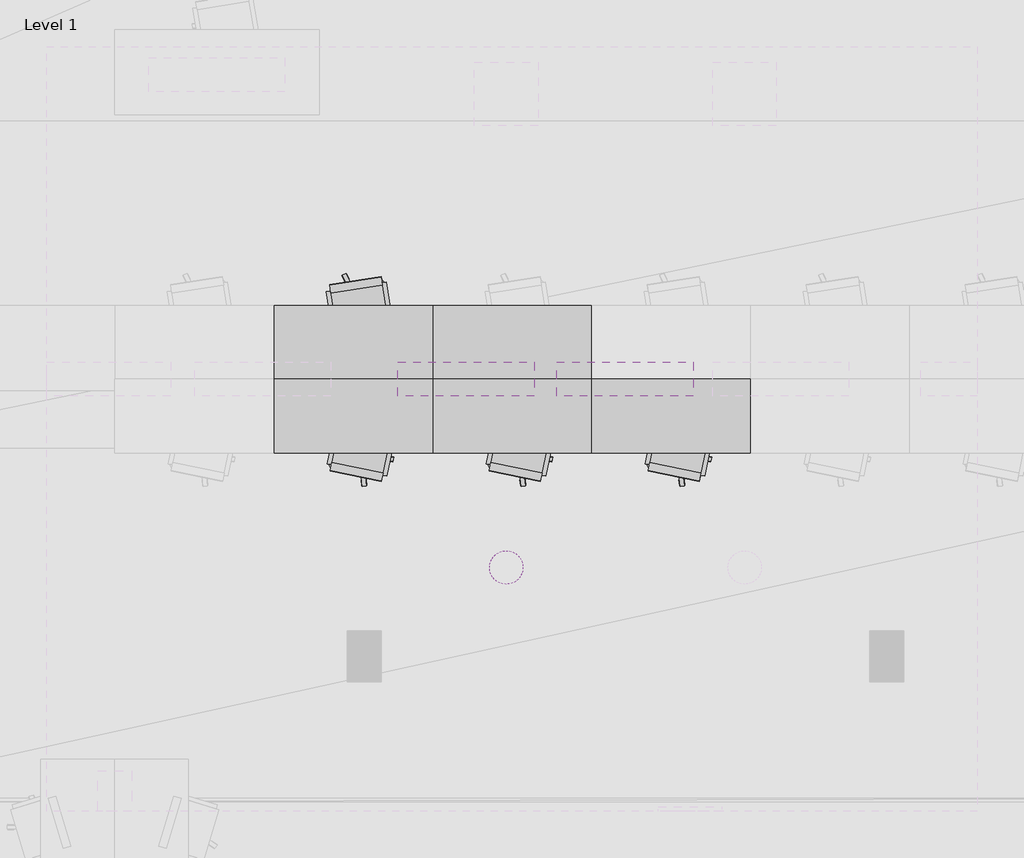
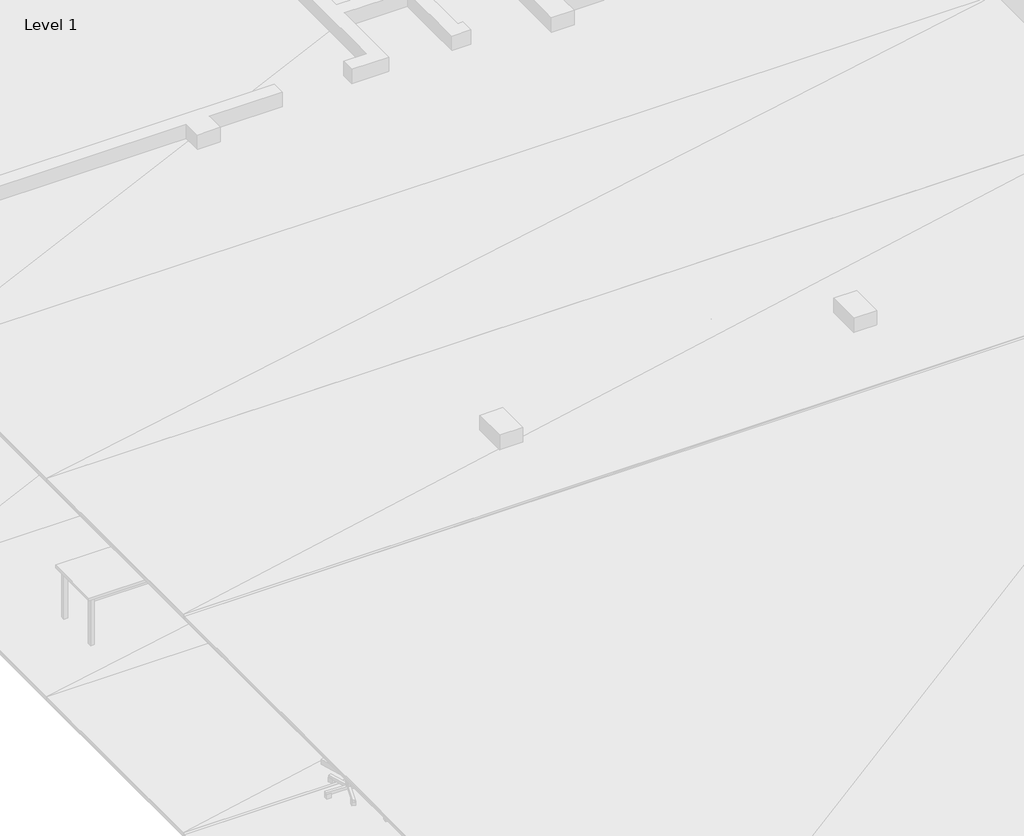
# One storey, part 7 of 14: 17 proxies.
"""IFC4 building model written with IfcOpenShell, lengths in millimetres."""

from ifc_helpers import new_model, si_unit, frame, origin, place, context, project, spatial, polyline, outline, extrude, element, save

model = new_model("IFC4")

# Units and contexts
model_context = context("Model", 3, world=origin())
ifc_project = project(units=[si_unit("LENGTHUNIT", "METRE", prefix="MILLI")], contexts=[model_context])

# Site, building, storey
site = spatial("IfcSite", under=ifc_project)
building = spatial("IfcBuilding", under=site)
storey = spatial("IfcBuildingStorey", under=building, Name="Level 1", Elevation=0.0)

# Proxies
placement = place(None, origin())
element("IfcBuildingElementProxy", 1, Name="Generic Models", at=placement, inside=storey, context=model_context, shape_type="SweptSolid", body=[
    extrude(outline(polyline([(5456.82621, 13859.130859), (5456.82621, 13209.131241), (4056.826115, 13209.131241), (4056.826115, 13859.130859), (5456.82621, 13859.130859)])), frame((0.0, 0.0, 709.999979), z_axis=(0.0, 0.0, 1.0), x_axis=(1.0, 0.0, 0.0)), (0.0, 0.0, 1.0), 40.000021),
])
element("IfcBuildingElementProxy", 2, Name="Generic Models", at=placement, inside=storey, context=model_context, shape_type="SweptSolid", body=[
    extrude(outline(polyline([(6856.826305, 13859.130859), (6856.826305, 13209.131241), (5456.82621, 13209.131241), (5456.82621, 13859.130859), (6856.826305, 13859.130859)])), frame((0.0, 0.0, 709.999979), z_axis=(0.0, 0.0, 1.0), x_axis=(1.0, 0.0, 0.0)), (0.0, 0.0, 1.0), 40.000021),
])
element("IfcBuildingElementProxy", 3, Name="Generic Models", at=placement, inside=storey, context=model_context, shape_type="SweptSolid", body=[
    extrude(outline(polyline([(8256.826401, 13859.130859), (8256.826401, 13209.131241), (6856.826305, 13209.131241), (6856.826305, 13859.130859), (8256.826401, 13859.130859)])), frame((0.0, 0.0, 709.999979), z_axis=(0.0, 0.0, 1.0), x_axis=(1.0, 0.0, 0.0)), (0.0, 0.0, 1.0), 40.000021),
])
element("IfcBuildingElementProxy", 4, Name="Generic Models", at=placement, inside=storey, context=model_context, shape_type="SweptSolid", body=[
    extrude(outline(polyline([(5456.82621, 14509.131432), (5456.82621, 13859.130859), (4056.826115, 13859.130859), (4056.826115, 14509.131432), (5456.82621, 14509.131432)])), frame((0.0, 0.0, 709.999979), z_axis=(0.0, 0.0, 1.0), x_axis=(1.0, 0.0, 0.0)), (0.0, 0.0, 1.0), 40.000021),
])
element("IfcBuildingElementProxy", 5, Name="Generic Models", at=placement, inside=storey, context=model_context, shape_type="SweptSolid", body=[
    extrude(outline(polyline([(6856.826305, 14509.131432), (6856.826305, 13859.130859), (5456.82621, 13859.130859), (5456.82621, 14509.131432), (6856.826305, 14509.131432)])), frame((0.0, 0.0, 709.999979), z_axis=(0.0, 0.0, 1.0), x_axis=(1.0, 0.0, 0.0)), (0.0, 0.0, 1.0), 40.000021),
])
element("IfcBuildingElementProxy", 6, Name="Generic Models", at=placement, inside=storey, context=model_context, shape_type="SweptSolid", body=[
    extrude(outline(polyline([(5152.470112, 13709.131241), (5152.470112, 14009.130478), (6352.469921, 14009.130478), (6352.469921, 13709.131241), (5152.470112, 13709.131241)])), frame((0.0, 0.0, 2910.000086), z_axis=(0.0, 0.0, 1.0), x_axis=(1.0, 0.0, 0.0)), (0.0, 0.0, 1.0), 39.999962),
])
element("IfcBuildingElementProxy", 7, Name="Generic Models", at=placement, inside=storey, context=model_context, shape_type="SweptSolid", body=[
    extrude(outline(polyline([(6552.470207, 13709.131241), (6552.470207, 14009.130478), (7752.470016, 14009.130478), (7752.470016, 13709.131241), (6552.470207, 13709.131241)])), frame((0.0, 0.0, 2910.000086), z_axis=(0.0, 0.0, 1.0), x_axis=(1.0, 0.0, 0.0)), (0.0, 0.0, 1.0), 39.999962),
])
element("IfcBuildingElementProxy", 8, Name="Generic Models", at=placement, inside=storey, context=model_context, shape_type="SweptSolid", body=[
    extrude(outline(polyline([(6242.160797, 12143.173218), (6228.543282, 12117.696762), (6210.217476, 12095.366478), (6187.886715, 12077.040672), (6162.410259, 12063.423157), (6134.766579, 12055.037498), (6106.018066, 12052.206039), (6077.269554, 12055.037498), (6049.625874, 12063.423157), (6024.149418, 12077.040672), (6001.818657, 12095.366478), (5983.492851, 12117.696762), (5969.875336, 12143.173218), (5961.489677, 12170.817375), (5958.658218, 12199.565887), (5961.489677, 12228.3144), (5969.875336, 12255.958557), (5983.492851, 12281.435013), (6001.818657, 12303.765297), (6024.149418, 12322.091103), (6049.625874, 12335.708618), (6077.269554, 12344.094276), (6106.018066, 12346.925735), (6134.766579, 12344.094276), (6162.410259, 12335.708618), (6187.886715, 12322.091103), (6210.217476, 12303.765297), (6228.543282, 12281.435013), (6242.160797, 12255.958557), (6250.546455, 12228.3144), (6253.377914, 12199.565887), (6250.546455, 12170.817375), (6242.160797, 12143.173218)])), frame((0.0, 0.0, 2910.000086), z_axis=(0.0, 0.0, 1.0), x_axis=(1.0, 0.0, 0.0)), (0.0, 0.0, 1.0), 39.999962),
])
element("IfcBuildingElementProxy", 9, Name="Generic Models", at=placement, inside=storey, context=model_context, shape_type="SweptSolid", body=[
    extrude(outline(polyline([(5404.326439, 13284.13105), (5359.326363, 13284.13105), (5359.326363, 13784.13105), (5404.326439, 13784.13105), (5404.326439, 13284.13105)])), frame((0.0, 0.0, 639.999986), z_axis=(0.0, 0.0, 1.0), x_axis=(1.0, 0.0, 0.0)), (0.0, 0.0, 1.0), 69.999993),
    extrude(outline(polyline([(4154.325962, 13284.13105), (4109.325886, 13284.13105), (4109.325886, 13784.13105), (4154.325962, 13784.13105), (4154.325962, 13284.13105)])), frame((0.0, 0.0, 639.999986), z_axis=(0.0, 0.0, 1.0), x_axis=(1.0, 0.0, 0.0)), (0.0, 0.0, 1.0), 69.999993),
    extrude(outline(polyline([(4131.825924, 13761.631012), (4131.825924, 13806.631088), (5381.826401, 13806.631088), (5381.826401, 13761.631012), (4131.825924, 13761.631012)])), frame((0.0, 0.0, 639.999986), z_axis=(0.0, 0.0, 1.0), x_axis=(1.0, 0.0, 0.0)), (0.0, 0.0, 1.0), 69.999993),
    extrude(outline(polyline([(4131.825924, 13261.631012), (4131.825924, 13306.631088), (5381.826401, 13306.631088), (5381.826401, 13261.631012), (4131.825924, 13261.631012)])), frame((0.0, 0.0, 639.999986), z_axis=(0.0, 0.0, 1.0), x_axis=(1.0, 0.0, 0.0)), (0.0, 0.0, 1.0), 69.999993),
    extrude(outline(polyline([(5357.451439, 13759.756088), (5357.451439, 13808.506012), (5406.201363, 13808.506012), (5406.201363, 13759.756088), (5357.451439, 13759.756088)])), frame((0.0, 0.0, 50.000001), z_axis=(0.0, 0.0, 1.0), x_axis=(1.0, 0.0, 0.0)), (0.0, 0.0, 1.0), 659.999978),
    extrude(outline(polyline([(5357.451439, 13259.756088), (5357.451439, 13308.506012), (5406.201363, 13308.506012), (5406.201363, 13259.756088), (5357.451439, 13259.756088)])), frame((0.0, 0.0, 50.000001), z_axis=(0.0, 0.0, 1.0), x_axis=(1.0, 0.0, 0.0)), (0.0, 0.0, 1.0), 659.999978),
    extrude(outline(polyline([(4107.450962, 13759.756088), (4107.450962, 13808.506012), (4156.200886, 13808.506012), (4156.200886, 13759.756088), (4107.450962, 13759.756088)])), frame((0.0, 0.0, 50.000001), z_axis=(0.0, 0.0, 1.0), x_axis=(1.0, 0.0, 0.0)), (0.0, 0.0, 1.0), 659.999978),
    extrude(outline(polyline([(4107.450962, 13259.756088), (4107.450962, 13308.506012), (4156.200886, 13308.506012), (4156.200886, 13259.756088), (4107.450962, 13259.756088)])), frame((0.0, 0.0, 50.000001), z_axis=(0.0, 0.0, 1.0), x_axis=(1.0, 0.0, 0.0)), (0.0, 0.0, 1.0), 659.999978),
])
element("IfcBuildingElementProxy", 10, Name="Generic Models", at=placement, inside=storey, context=model_context, shape_type="SweptSolid", body=[
    extrude(outline(polyline([(6804.326534, 13284.13105), (6759.326458, 13284.13105), (6759.326458, 13784.13105), (6804.326534, 13784.13105), (6804.326534, 13284.13105)])), frame((0.0, 0.0, 639.999986), z_axis=(0.0, 0.0, 1.0), x_axis=(1.0, 0.0, 0.0)), (0.0, 0.0, 1.0), 69.999993),
    extrude(outline(polyline([(5554.326057, 13284.13105), (5509.325981, 13284.13105), (5509.325981, 13784.13105), (5554.326057, 13784.13105), (5554.326057, 13284.13105)])), frame((0.0, 0.0, 639.999986), z_axis=(0.0, 0.0, 1.0), x_axis=(1.0, 0.0, 0.0)), (0.0, 0.0, 1.0), 69.999993),
    extrude(outline(polyline([(5531.826019, 13761.631012), (5531.826019, 13806.631088), (6781.826496, 13806.631088), (6781.826496, 13761.631012), (5531.826019, 13761.631012)])), frame((0.0, 0.0, 639.999986), z_axis=(0.0, 0.0, 1.0), x_axis=(1.0, 0.0, 0.0)), (0.0, 0.0, 1.0), 69.999993),
    extrude(outline(polyline([(5531.826019, 13261.631012), (5531.826019, 13306.631088), (6781.826496, 13306.631088), (6781.826496, 13261.631012), (5531.826019, 13261.631012)])), frame((0.0, 0.0, 639.999986), z_axis=(0.0, 0.0, 1.0), x_axis=(1.0, 0.0, 0.0)), (0.0, 0.0, 1.0), 69.999993),
    extrude(outline(polyline([(6757.451534, 13759.756088), (6757.451534, 13808.506012), (6806.201458, 13808.506012), (6806.201458, 13759.756088), (6757.451534, 13759.756088)])), frame((0.0, 0.0, 50.000001), z_axis=(0.0, 0.0, 1.0), x_axis=(1.0, 0.0, 0.0)), (0.0, 0.0, 1.0), 659.999978),
    extrude(outline(polyline([(6757.451534, 13259.756088), (6757.451534, 13308.506012), (6806.201458, 13308.506012), (6806.201458, 13259.756088), (6757.451534, 13259.756088)])), frame((0.0, 0.0, 50.000001), z_axis=(0.0, 0.0, 1.0), x_axis=(1.0, 0.0, 0.0)), (0.0, 0.0, 1.0), 659.999978),
    extrude(outline(polyline([(5507.451057, 13759.756088), (5507.451057, 13808.506012), (5556.200981, 13808.506012), (5556.200981, 13759.756088), (5507.451057, 13759.756088)])), frame((0.0, 0.0, 50.000001), z_axis=(0.0, 0.0, 1.0), x_axis=(1.0, 0.0, 0.0)), (0.0, 0.0, 1.0), 659.999978),
    extrude(outline(polyline([(5507.451057, 13259.756088), (5507.451057, 13308.506012), (5556.200981, 13308.506012), (5556.200981, 13259.756088), (5507.451057, 13259.756088)])), frame((0.0, 0.0, 50.000001), z_axis=(0.0, 0.0, 1.0), x_axis=(1.0, 0.0, 0.0)), (0.0, 0.0, 1.0), 659.999978),
])
element("IfcBuildingElementProxy", 11, Name="Generic Models", at=placement, inside=storey, context=model_context, shape_type="SweptSolid", body=[
    extrude(outline(polyline([(8204.32663, 13284.13105), (8159.326553, 13284.13105), (8159.326553, 13784.13105), (8204.32663, 13784.13105), (8204.32663, 13284.13105)])), frame((0.0, 0.0, 639.999986), z_axis=(0.0, 0.0, 1.0), x_axis=(1.0, 0.0, 0.0)), (0.0, 0.0, 1.0), 69.999993),
    extrude(outline(polyline([(6954.326153, 13284.13105), (6909.326077, 13284.13105), (6909.326077, 13784.13105), (6954.326153, 13784.13105), (6954.326153, 13284.13105)])), frame((0.0, 0.0, 639.999986), z_axis=(0.0, 0.0, 1.0), x_axis=(1.0, 0.0, 0.0)), (0.0, 0.0, 1.0), 69.999993),
    extrude(outline(polyline([(6931.826115, 13761.631012), (6931.826115, 13806.631088), (8181.826591, 13806.631088), (8181.826591, 13761.631012), (6931.826115, 13761.631012)])), frame((0.0, 0.0, 639.999986), z_axis=(0.0, 0.0, 1.0), x_axis=(1.0, 0.0, 0.0)), (0.0, 0.0, 1.0), 69.999993),
    extrude(outline(polyline([(6931.826115, 13261.631012), (6931.826115, 13306.631088), (8181.826591, 13306.631088), (8181.826591, 13261.631012), (6931.826115, 13261.631012)])), frame((0.0, 0.0, 639.999986), z_axis=(0.0, 0.0, 1.0), x_axis=(1.0, 0.0, 0.0)), (0.0, 0.0, 1.0), 69.999993),
    extrude(outline(polyline([(8157.45163, 13759.756088), (8157.45163, 13808.506012), (8206.201553, 13808.506012), (8206.201553, 13759.756088), (8157.45163, 13759.756088)])), frame((0.0, 0.0, 50.000001), z_axis=(0.0, 0.0, 1.0), x_axis=(1.0, 0.0, 0.0)), (0.0, 0.0, 1.0), 659.999978),
    extrude(outline(polyline([(8157.45163, 13259.756088), (8157.45163, 13308.506012), (8206.201553, 13308.506012), (8206.201553, 13259.756088), (8157.45163, 13259.756088)])), frame((0.0, 0.0, 50.000001), z_axis=(0.0, 0.0, 1.0), x_axis=(1.0, 0.0, 0.0)), (0.0, 0.0, 1.0), 659.999978),
    extrude(outline(polyline([(6907.451153, 13759.756088), (6907.451153, 13808.506012), (6956.201077, 13808.506012), (6956.201077, 13759.756088), (6907.451153, 13759.756088)])), frame((0.0, 0.0, 50.000001), z_axis=(0.0, 0.0, 1.0), x_axis=(1.0, 0.0, 0.0)), (0.0, 0.0, 1.0), 659.999978),
    extrude(outline(polyline([(6907.451153, 13259.756088), (6907.451153, 13308.506012), (6956.201077, 13308.506012), (6956.201077, 13259.756088), (6907.451153, 13259.756088)])), frame((0.0, 0.0, 50.000001), z_axis=(0.0, 0.0, 1.0), x_axis=(1.0, 0.0, 0.0)), (0.0, 0.0, 1.0), 659.999978),
])
element("IfcBuildingElementProxy", 12, Name="Generic Models", at=placement, inside=storey, context=model_context, shape_type="SweptSolid", body=[
    extrude(outline(polyline([(5404.326439, 13934.130669), (5359.326363, 13934.130669), (5359.326363, 14434.131622), (5404.326439, 14434.131622), (5404.326439, 13934.130669)])), frame((0.0, 0.0, 639.999986), z_axis=(0.0, 0.0, 1.0), x_axis=(1.0, 0.0, 0.0)), (0.0, 0.0, 1.0), 69.999993),
    extrude(outline(polyline([(4154.325962, 13934.130669), (4109.325886, 13934.130669), (4109.325886, 14434.131622), (4154.325962, 14434.131622), (4154.325962, 13934.130669)])), frame((0.0, 0.0, 639.999986), z_axis=(0.0, 0.0, 1.0), x_axis=(1.0, 0.0, 0.0)), (0.0, 0.0, 1.0), 69.999993),
    extrude(outline(polyline([(4131.825924, 14411.631584), (4131.825924, 14456.63166), (5381.826401, 14456.63166), (5381.826401, 14411.631584), (4131.825924, 14411.631584)])), frame((0.0, 0.0, 639.999986), z_axis=(0.0, 0.0, 1.0), x_axis=(1.0, 0.0, 0.0)), (0.0, 0.0, 1.0), 69.999993),
    extrude(outline(polyline([(4131.825924, 13911.63063), (4131.825924, 13956.630707), (5381.826401, 13956.630707), (5381.826401, 13911.63063), (4131.825924, 13911.63063)])), frame((0.0, 0.0, 639.999986), z_axis=(0.0, 0.0, 1.0), x_axis=(1.0, 0.0, 0.0)), (0.0, 0.0, 1.0), 69.999993),
    extrude(outline(polyline([(5357.450962, 14409.75666), (5357.450962, 14458.506584), (5406.201363, 14458.506584), (5406.201363, 14409.75666), (5357.450962, 14409.75666)])), frame((0.0, 0.0, 50.000001), z_axis=(0.0, 0.0, 1.0), x_axis=(1.0, 0.0, 0.0)), (0.0, 0.0, 1.0), 659.999978),
    extrude(outline(polyline([(5357.450962, 13909.755707), (5357.450962, 13958.50563), (5406.201363, 13958.50563), (5406.201363, 13909.755707), (5357.450962, 13909.755707)])), frame((0.0, 0.0, 50.000001), z_axis=(0.0, 0.0, 1.0), x_axis=(1.0, 0.0, 0.0)), (0.0, 0.0, 1.0), 659.999978),
    extrude(outline(polyline([(4107.450962, 14409.75666), (4107.450962, 14458.506584), (4156.201363, 14458.506584), (4156.201363, 14409.75666), (4107.450962, 14409.75666)])), frame((0.0, 0.0, 50.000001), z_axis=(0.0, 0.0, 1.0), x_axis=(1.0, 0.0, 0.0)), (0.0, 0.0, 1.0), 659.999978),
    extrude(outline(polyline([(4107.450962, 13909.755707), (4107.450962, 13958.50563), (4156.201363, 13958.50563), (4156.201363, 13909.755707), (4107.450962, 13909.755707)])), frame((0.0, 0.0, 50.000001), z_axis=(0.0, 0.0, 1.0), x_axis=(1.0, 0.0, 0.0)), (0.0, 0.0, 1.0), 659.999978),
])
element("IfcBuildingElementProxy", 13, Name="Generic Models", at=placement, inside=storey, context=model_context, shape_type="SweptSolid", body=[
    extrude(outline(polyline([(6804.326534, 13934.130669), (6759.326458, 13934.130669), (6759.326458, 14434.131622), (6804.326534, 14434.131622), (6804.326534, 13934.130669)])), frame((0.0, 0.0, 639.999986), z_axis=(0.0, 0.0, 1.0), x_axis=(1.0, 0.0, 0.0)), (0.0, 0.0, 1.0), 69.999993),
    extrude(outline(polyline([(5554.326057, 13934.130669), (5509.325981, 13934.130669), (5509.325981, 14434.131622), (5554.326057, 14434.131622), (5554.326057, 13934.130669)])), frame((0.0, 0.0, 639.999986), z_axis=(0.0, 0.0, 1.0), x_axis=(1.0, 0.0, 0.0)), (0.0, 0.0, 1.0), 69.999993),
    extrude(outline(polyline([(5531.826019, 14411.631584), (5531.826019, 14456.63166), (6781.826496, 14456.63166), (6781.826496, 14411.631584), (5531.826019, 14411.631584)])), frame((0.0, 0.0, 639.999986), z_axis=(0.0, 0.0, 1.0), x_axis=(1.0, 0.0, 0.0)), (0.0, 0.0, 1.0), 69.999993),
    extrude(outline(polyline([(5531.826019, 13911.63063), (5531.826019, 13956.630707), (6781.826496, 13956.630707), (6781.826496, 13911.63063), (5531.826019, 13911.63063)])), frame((0.0, 0.0, 639.999986), z_axis=(0.0, 0.0, 1.0), x_axis=(1.0, 0.0, 0.0)), (0.0, 0.0, 1.0), 69.999993),
    extrude(outline(polyline([(6757.451057, 14409.75666), (6757.451057, 14458.506584), (6806.201458, 14458.506584), (6806.201458, 14409.75666), (6757.451057, 14409.75666)])), frame((0.0, 0.0, 50.000001), z_axis=(0.0, 0.0, 1.0), x_axis=(1.0, 0.0, 0.0)), (0.0, 0.0, 1.0), 659.999978),
    extrude(outline(polyline([(6757.451057, 13909.755707), (6757.451057, 13958.50563), (6806.201458, 13958.50563), (6806.201458, 13909.755707), (6757.451057, 13909.755707)])), frame((0.0, 0.0, 50.000001), z_axis=(0.0, 0.0, 1.0), x_axis=(1.0, 0.0, 0.0)), (0.0, 0.0, 1.0), 659.999978),
    extrude(outline(polyline([(5507.451057, 14409.75666), (5507.451057, 14458.506584), (5556.201458, 14458.506584), (5556.201458, 14409.75666), (5507.451057, 14409.75666)])), frame((0.0, 0.0, 50.000001), z_axis=(0.0, 0.0, 1.0), x_axis=(1.0, 0.0, 0.0)), (0.0, 0.0, 1.0), 659.999978),
    extrude(outline(polyline([(5507.451057, 13909.755707), (5507.451057, 13958.50563), (5556.201458, 13958.50563), (5556.201458, 13909.755707), (5507.451057, 13909.755707)])), frame((0.0, 0.0, 50.000001), z_axis=(0.0, 0.0, 1.0), x_axis=(1.0, 0.0, 0.0)), (0.0, 0.0, 1.0), 659.999978),
])
element("IfcBuildingElementProxy", 14, Name="Generic Models", at=placement, inside=storey, context=model_context, shape_type="SweptSolid", body=[
    extrude(outline(polyline([(4577.1451, 14484.13372), (4581.773281, 14454.493523), (4552.13213, 14449.865341), (4547.503948, 14479.505539), (4577.1451, 14484.13372)])), frame((0.0, 0.0, 439.999998), z_axis=(0.0, 0.0, 1.0), x_axis=(1.0, 0.0, 0.0)), (0.0, 0.0, 1.0), 199.999988),
    extrude(outline(polyline([(4555.702209, 14637.663841), (4608.156204, 14301.734924), (4573.57502, 14296.33522), (4521.121025, 14632.264137), (4555.702209, 14637.663841)])), frame((0.0, 0.0, 612.500012), z_axis=(0.0, 0.0, 1.0), x_axis=(1.0, 0.0, 0.0)), (0.0, 0.0, 1.0), 34.999967),
    extrude(outline(polyline([(4617.224216, 14664.982796), (4621.080875, 14640.281677), (4596.380234, 14636.425018), (4592.523575, 14661.126137), (4617.224216, 14664.982796)])), frame((0.0, 0.0, 460.000008), z_axis=(0.0, 0.0, 1.0), x_axis=(1.0, 0.0, 0.0)), (0.0, 0.0, 1.0), 400.000006),
    extrude(outline(polyline([(5071.158886, 14561.272621), (5075.787067, 14531.63147), (5046.146393, 14527.003288), (5041.517735, 14556.64444), (5071.158886, 14561.272621)])), frame((0.0, 0.0, 439.999998), z_axis=(0.0, 0.0, 1.0), x_axis=(1.0, 0.0, 0.0)), (0.0, 0.0, 1.0), 199.999988),
    extrude(outline(polyline([(5049.715996, 14714.802742), (5102.169991, 14378.872871), (5067.588806, 14373.473167), (5015.134811, 14709.403038), (5049.715996, 14714.802742)])), frame((0.0, 0.0, 612.500012), z_axis=(0.0, 0.0, 1.0), x_axis=(1.0, 0.0, 0.0)), (0.0, 0.0, 1.0), 34.999967),
    extrude(outline(polyline([(4972.914219, 14720.521927), (4976.770878, 14695.821762), (4952.070236, 14691.964149), (4948.213577, 14716.665268), (4972.914219, 14720.521927)])), frame((0.0, 0.0, 460.000008), z_axis=(0.0, 0.0, 1.0), x_axis=(1.0, 0.0, 0.0)), (0.0, 0.0, 1.0), 400.000006),
    extrude(outline(polyline([(5004.951, 14758.418083), (5015.750408, 14689.256668), (4561.257839, 14618.288994), (4550.458431, 14687.451363), (5004.951, 14758.418083)])), frame((0.0, 0.0, 460.000008), z_axis=(0.0, 0.0, 1.0), x_axis=(1.0, 0.0, 0.0)), (0.0, 0.0, 1.0), 479.99999),
    extrude(outline(polyline([(5004.179955, 14763.358116), (5068.975925, 14348.386765), (4614.48288, 14277.420044), (4549.686909, 14692.391396), (5004.179955, 14763.358116)])), frame((0.0, 0.0, 400.000006), z_axis=(0.0, 0.0, 1.0), x_axis=(1.0, 0.0, 0.0)), (0.0, 0.0, 1.0), 69.999993),
    extrude(outline(polyline([(4826.831341, 14490.077972), (4809.331417, 14485.388756), (4791.831493, 14490.077972), (4779.020309, 14502.88868), (4774.33157, 14520.389557), (4779.020309, 14537.889481), (4791.831493, 14550.700188), (4809.331417, 14555.389404), (4826.831341, 14550.700188), (4839.642525, 14537.889481), (4844.331264, 14520.389557), (4839.642525, 14502.88868), (4826.831341, 14490.077972)])), frame((0.0, 0.0, 115.000002), z_axis=(0.0, 0.0, 1.0), x_axis=(1.0, 0.0, 0.0)), (0.0, 0.0, 1.0), 280.000009),
    extrude(outline(polyline([(4722.04113, 14742.408752), (4681.901455, 14722.066879), (4657.039165, 14771.126747), (4697.178841, 14791.46862), (4722.04113, 14742.408752)])), frame((0.0, 0.0, 35.0), z_axis=(0.0, 0.0, 1.0), x_axis=(1.0, 0.0, 0.0)), (0.0, 0.0, 1.0), 59.999999),
    extrude(outline(polyline([(4827.201366, 14523.839951), (4795.981884, 14508.018494), (4660.368919, 14775.617599), (4691.588879, 14791.439056), (4827.201366, 14523.839951)])), frame((0.0, 0.0, 82.500003), z_axis=(0.0, 0.0, 1.0), x_axis=(1.0, 0.0, 0.0)), (0.0, 0.0, 1.0), 34.999997),
    extrude(outline(polyline([(4993.510723, 14672.01519), (4961.760521, 14703.904152), (5000.736237, 14742.710114), (5032.486439, 14710.821152), (4993.510723, 14672.01519)])), frame((0.0, 0.0, 35.0), z_axis=(0.0, 0.0, 1.0), x_axis=(1.0, 0.0, 0.0)), (0.0, 0.0, 1.0), 59.999999),
    extrude(outline(polyline([(4818.135262, 14504.460335), (4793.440819, 14529.262543), (5006.035805, 14740.930557), (5030.730247, 14716.128349), (4818.135262, 14504.460335)])), frame((0.0, 0.0, 82.500003), z_axis=(0.0, 0.0, 1.0), x_axis=(1.0, 0.0, 0.0)), (0.0, 0.0, 1.0), 34.999997),
    extrude(outline(polyline([(5010.45084, 14392.079353), (5030.968189, 14432.12986), (5079.918861, 14407.052994), (5059.401512, 14367.002487), (5010.45084, 14392.079353)])), frame((0.0, 0.0, 35.0), z_axis=(0.0, 0.0, 1.0), x_axis=(1.0, 0.0, 0.0)), (0.0, 0.0, 1.0), 59.999999),
    extrude(outline(polyline([(4796.902657, 14507.09343), (4812.860012, 14538.244247), (5079.864025, 14401.463509), (5063.906193, 14370.312691), (4796.902657, 14507.09343)])), frame((0.0, 0.0, 82.500003), z_axis=(0.0, 0.0, 1.0), x_axis=(1.0, 0.0, 0.0)), (0.0, 0.0, 1.0), 34.999997),
    extrude(outline(polyline([(4749.450684, 14289.463043), (4793.880939, 14282.326698), (4785.158634, 14228.022575), (4740.727901, 14235.15892), (4749.450684, 14289.463043)])), frame((0.0, 0.0, 35.0), z_axis=(0.0, 0.0, 1.0), x_axis=(1.0, 0.0, 0.0)), (0.0, 0.0, 1.0), 59.999999),
    extrude(outline(polyline([(4792.845726, 14528.100967), (4827.403069, 14522.550583), (4779.825211, 14226.34697), (4745.268345, 14231.898308), (4792.845726, 14528.100967)])), frame((0.0, 0.0, 82.500003), z_axis=(0.0, 0.0, 1.0), x_axis=(1.0, 0.0, 0.0)), (0.0, 0.0, 1.0), 34.999997),
    extrude(outline(polyline([(4571.203709, 14505.979538), (4578.145981, 14461.518288), (4523.804665, 14453.032494), (4516.861916, 14497.493744), (4571.203709, 14505.979538)])), frame((0.0, 0.0, 35.0), z_axis=(0.0, 0.0, 1.0), x_axis=(1.0, 0.0, 0.0)), (0.0, 0.0, 1.0), 59.999999),
    extrude(outline(polyline([(4811.571598, 14538.451195), (4816.971302, 14503.87001), (4520.563126, 14457.587242), (4515.163422, 14492.168427), (4811.571598, 14538.451195)])), frame((0.0, 0.0, 82.500003), z_axis=(0.0, 0.0, 1.0), x_axis=(1.0, 0.0, 0.0)), (0.0, 0.0, 1.0), 34.999997),
])
element("IfcBuildingElementProxy", 15, Name="Generic Models", at=placement, inside=storey, context=model_context, shape_type="SweptSolid", body=[
    extrude(outline(polyline([(5053.338051, 13164.08062), (5059.376717, 13193.466187), (5088.762283, 13187.428474), (5082.724094, 13158.041954), (5053.338051, 13164.08062)])), frame((0.0, 0.0, 439.999998), z_axis=(0.0, 0.0, 1.0), x_axis=(1.0, 0.0, 0.0)), (0.0, 0.0, 1.0), 199.999988),
    extrude(outline(polyline([(5019.690037, 13012.756348), (5088.126659, 13345.797539), (5122.410297, 13338.752747), (5053.973675, 13005.711555), (5019.690037, 13012.756348)])), frame((0.0, 0.0, 612.500012), z_axis=(0.0, 0.0, 1.0), x_axis=(1.0, 0.0, 0.0)), (0.0, 0.0, 1.0), 34.999967),
    extrude(outline(polyline([(4952.497959, 13008.69751), (4957.530022, 13033.185959), (4982.018471, 13028.154373), (4976.986408, 13003.665924), (4952.497959, 13008.69751)])), frame((0.0, 0.0, 460.000008), z_axis=(0.0, 0.0, 1.0), x_axis=(1.0, 0.0, 0.0)), (0.0, 0.0, 1.0), 400.000006),
    extrude(outline(polyline([(4563.571453, 13264.722824), (4569.610119, 13294.108391), (4598.996162, 13288.069725), (4592.957497, 13258.684158), (4563.571453, 13264.722824)])), frame((0.0, 0.0, 439.999998), z_axis=(0.0, 0.0, 1.0), x_axis=(1.0, 0.0, 0.0)), (0.0, 0.0, 1.0), 199.999988),
    extrude(outline(polyline([(4529.923916, 13113.398552), (4598.360062, 13446.439743), (4632.644176, 13439.394951), (4564.207554, 13106.35376), (4529.923916, 13113.398552)])), frame((0.0, 0.0, 612.500012), z_axis=(0.0, 0.0, 1.0), x_axis=(1.0, 0.0, 0.0)), (0.0, 0.0, 1.0), 34.999967),
    extrude(outline(polyline([(4599.86639, 13081.160545), (4604.898453, 13105.648041), (4629.386425, 13100.616455), (4624.354362, 13076.128006), (4599.86639, 13081.160545)])), frame((0.0, 0.0, 460.000008), z_axis=(0.0, 0.0, 1.0), x_axis=(1.0, 0.0, 0.0)), (0.0, 0.0, 1.0), 400.000006),
    extrude(outline(polyline([(4556.591988, 13056.873322), (4570.682049, 13125.440598), (5021.266937, 13032.850266), (5007.176876, 12964.28299), (4556.591988, 13056.873322)])), frame((0.0, 0.0, 460.000008), z_axis=(0.0, 0.0, 1.0), x_axis=(1.0, 0.0, 0.0)), (0.0, 0.0, 1.0), 479.99999),
    extrude(outline(polyline([(4555.585384, 13051.976204), (4640.124798, 13463.37986), (5090.710163, 13370.788574), (5006.17075, 12959.384918), (4555.585384, 13051.976204)])), frame((0.0, 0.0, 400.000006), z_axis=(0.0, 0.0, 1.0), x_axis=(1.0, 0.0, 0.0)), (0.0, 0.0, 1.0), 69.999993),
    extrude(outline(polyline([(4840.647697, 13181.071281), (4823.147774, 13176.382065), (4805.64785, 13181.071281), (4792.836666, 13193.881989), (4788.147926, 13211.381912), (4792.836666, 13228.88279), (4805.64785, 13241.693497), (4823.147774, 13246.382713), (4840.647697, 13241.693497), (4853.458881, 13228.88279), (4858.147621, 13211.381912), (4853.458881, 13193.881989), (4840.647697, 13181.071281)])), frame((0.0, 0.0, 115.000002), z_axis=(0.0, 0.0, 1.0), x_axis=(1.0, 0.0, 0.0)), (0.0, 0.0, 1.0), 280.000009),
    extrude(outline(polyline([(4827.211857, 12972.853661), (4871.93203, 12977.860451), (4878.051758, 12923.201561), (4833.331108, 12918.194771), (4827.211857, 12972.853661)])), frame((0.0, 0.0, 35.0), z_axis=(0.0, 0.0, 1.0), x_axis=(1.0, 0.0, 0.0)), (0.0, 0.0, 1.0), 59.999999),
    extrude(outline(polyline([(4805.2001, 13214.404106), (4839.982986, 13218.297958), (4873.360634, 12920.161247), (4838.578224, 12916.266441), (4805.2001, 13214.404106)])), frame((0.0, 0.0, 82.500003), z_axis=(0.0, 0.0, 1.0), x_axis=(1.0, 0.0, 0.0)), (0.0, 0.0, 1.0), 34.999997),
    extrude(outline(polyline([(4597.549438, 13133.808136), (4616.130352, 13092.823029), (4566.038132, 13070.113182), (4547.456741, 13111.097336), (4597.549438, 13133.808136)])), frame((0.0, 0.0, 35.0), z_axis=(0.0, 0.0, 1.0), x_axis=(1.0, 0.0, 0.0)), (0.0, 0.0, 1.0), 59.999999),
    extrude(outline(polyline([(4820.475578, 13229.385376), (4834.927559, 13197.508812), (4561.696529, 13073.635101), (4547.244549, 13105.511665), (4820.475578, 13229.385376)])), frame((0.0, 0.0, 82.500003), z_axis=(0.0, 0.0, 1.0), x_axis=(1.0, 0.0, 0.0)), (0.0, 0.0, 1.0), 34.999997),
    extrude(outline(polyline([(4679.656506, 13401.968002), (4646.419525, 13371.630669), (4609.341145, 13412.25338), (4642.578125, 13442.590714), (4679.656506, 13401.968002)])), frame((0.0, 0.0, 35.0), z_axis=(0.0, 0.0, 1.0), x_axis=(1.0, 0.0, 0.0)), (0.0, 0.0, 1.0), 59.999999),
    extrude(outline(polyline([(4839.44416, 13219.48719), (4813.592911, 13195.89138), (4611.349106, 13417.470932), (4637.199879, 13441.065788), (4839.44416, 13219.48719)])), frame((0.0, 0.0, 82.500003), z_axis=(0.0, 0.0, 1.0), x_axis=(1.0, 0.0, 0.0)), (0.0, 0.0, 1.0), 34.999997),
    extrude(outline(polyline([(4960.063934, 13406.744957), (4920.941353, 13428.980827), (4948.11821, 13476.797104), (4987.240791, 13454.561234), (4960.063934, 13406.744957)])), frame((0.0, 0.0, 35.0), z_axis=(0.0, 0.0, 1.0), x_axis=(1.0, 0.0, 0.0)), (0.0, 0.0, 1.0), 59.999999),
    extrude(outline(polyline([(4835.891724, 13198.3881), (4805.462837, 13215.682983), (4953.700066, 13476.499557), (4984.128952, 13459.205627), (4835.891724, 13198.3881)])), frame((0.0, 0.0, 82.500003), z_axis=(0.0, 0.0, 1.0), x_axis=(1.0, 0.0, 0.0)), (0.0, 0.0, 1.0), 34.999997),
    extrude(outline(polyline([(5051.258087, 13141.537666), (5060.315609, 13185.616493), (5114.190102, 13174.546242), (5105.132103, 13130.467415), (5051.258087, 13141.537666)])), frame((0.0, 0.0, 35.0), z_axis=(0.0, 0.0, 1.0), x_axis=(1.0, 0.0, 0.0)), (0.0, 0.0, 1.0), 59.999999),
    extrude(outline(polyline([(4814.727783, 13195.246696), (4821.772575, 13229.530334), (5115.632534, 13169.145584), (5108.587265, 13134.861946), (4814.727783, 13195.246696)])), frame((0.0, 0.0, 82.500003), z_axis=(0.0, 0.0, 1.0), x_axis=(1.0, 0.0, 0.0)), (0.0, 0.0, 1.0), 34.999997),
])
element("IfcBuildingElementProxy", 16, Name="Generic Models", at=placement, inside=storey, context=model_context, shape_type="SweptSolid", body=[
    extrude(outline(polyline([(6453.337669, 13164.08062), (6459.376335, 13193.46714), (6488.762379, 13187.428474), (6482.723713, 13158.041954), (6453.337669, 13164.08062)])), frame((0.0, 0.0, 439.999998), z_axis=(0.0, 0.0, 1.0), x_axis=(1.0, 0.0, 0.0)), (0.0, 0.0, 1.0), 199.999988),
    extrude(outline(polyline([(6419.690132, 13012.756348), (6488.126278, 13345.797539), (6522.410393, 13338.752747), (6453.97377, 13005.711555), (6419.690132, 13012.756348)])), frame((0.0, 0.0, 612.500012), z_axis=(0.0, 0.0, 1.0), x_axis=(1.0, 0.0, 0.0)), (0.0, 0.0, 1.0), 34.999967),
    extrude(outline(polyline([(6352.498055, 13008.69751), (6357.530117, 13033.185959), (6382.018566, 13028.154373), (6376.986504, 13003.665924), (6352.498055, 13008.69751)])), frame((0.0, 0.0, 460.000008), z_axis=(0.0, 0.0, 1.0), x_axis=(1.0, 0.0, 0.0)), (0.0, 0.0, 1.0), 400.000006),
    extrude(outline(polyline([(5963.571548, 13264.722824), (5969.609737, 13294.108391), (5998.995781, 13288.069725), (5992.957592, 13258.684158), (5963.571548, 13264.722824)])), frame((0.0, 0.0, 439.999998), z_axis=(0.0, 0.0, 1.0), x_axis=(1.0, 0.0, 0.0)), (0.0, 0.0, 1.0), 199.999988),
    extrude(outline(polyline([(5929.923534, 13113.398552), (5998.360157, 13446.439743), (6032.643795, 13439.393997), (5964.207172, 13106.352806), (5929.923534, 13113.398552)])), frame((0.0, 0.0, 612.500012), z_axis=(0.0, 0.0, 1.0), x_axis=(1.0, 0.0, 0.0)), (0.0, 0.0, 1.0), 34.999967),
    extrude(outline(polyline([(5999.866009, 13081.159592), (6004.898071, 13105.648041), (6029.38652, 13100.616455), (6024.354458, 13076.128006), (5999.866009, 13081.159592)])), frame((0.0, 0.0, 460.000008), z_axis=(0.0, 0.0, 1.0), x_axis=(1.0, 0.0, 0.0)), (0.0, 0.0, 1.0), 400.000006),
    extrude(outline(polyline([(5956.592083, 13056.873322), (5970.681667, 13125.440598), (6421.267033, 13032.850266), (6407.176971, 12964.28299), (5956.592083, 13056.873322)])), frame((0.0, 0.0, 460.000008), z_axis=(0.0, 0.0, 1.0), x_axis=(1.0, 0.0, 0.0)), (0.0, 0.0, 1.0), 479.99999),
    extrude(outline(polyline([(5955.58548, 13051.97525), (6040.124416, 13463.37986), (6490.709782, 13370.789528), (6406.170845, 12959.384918), (5955.58548, 13051.97525)])), frame((0.0, 0.0, 400.000006), z_axis=(0.0, 0.0, 1.0), x_axis=(1.0, 0.0, 0.0)), (0.0, 0.0, 1.0), 69.999993),
    extrude(outline(polyline([(6240.647793, 13181.071281), (6223.147392, 13176.382065), (6205.647469, 13181.071281), (6192.836761, 13193.881989), (6188.147545, 13211.381912), (6192.836761, 13228.88279), (6205.647469, 13241.693497), (6223.147392, 13246.382713), (6240.647793, 13241.693497), (6253.4585, 13228.88279), (6258.147717, 13211.381912), (6253.4585, 13193.881989), (6240.647793, 13181.071281)])), frame((0.0, 0.0, 115.000002), z_axis=(0.0, 0.0, 1.0), x_axis=(1.0, 0.0, 0.0)), (0.0, 0.0, 1.0), 280.000009),
    extrude(outline(polyline([(6227.211475, 12972.853661), (6271.932125, 12977.860451), (6278.051376, 12923.201561), (6233.331203, 12918.194771), (6227.211475, 12972.853661)])), frame((0.0, 0.0, 35.0), z_axis=(0.0, 0.0, 1.0), x_axis=(1.0, 0.0, 0.0)), (0.0, 0.0, 1.0), 59.999999),
    extrude(outline(polyline([(6205.200195, 13214.404106), (6239.982605, 13218.297958), (6273.360729, 12920.161247), (6238.57832, 12916.266441), (6205.200195, 13214.404106)])), frame((0.0, 0.0, 82.500003), z_axis=(0.0, 0.0, 1.0), x_axis=(1.0, 0.0, 0.0)), (0.0, 0.0, 1.0), 34.999997),
    extrude(outline(polyline([(5997.549057, 13133.808136), (6016.130447, 13092.823029), (5966.03775, 13070.113182), (5947.456837, 13111.097336), (5997.549057, 13133.808136)])), frame((0.0, 0.0, 35.0), z_axis=(0.0, 0.0, 1.0), x_axis=(1.0, 0.0, 0.0)), (0.0, 0.0, 1.0), 59.999999),
    extrude(outline(polyline([(6220.475674, 13229.385376), (6234.927654, 13197.508812), (5961.696148, 13073.634148), (5947.244167, 13105.511665), (6220.475674, 13229.385376)])), frame((0.0, 0.0, 82.500003), z_axis=(0.0, 0.0, 1.0), x_axis=(1.0, 0.0, 0.0)), (0.0, 0.0, 1.0), 34.999997),
    extrude(outline(polyline([(6079.656124, 13401.967049), (6046.419144, 13371.630669), (6009.34124, 13412.25338), (6042.577744, 13442.590714), (6079.656124, 13401.967049)])), frame((0.0, 0.0, 35.0), z_axis=(0.0, 0.0, 1.0), x_axis=(1.0, 0.0, 0.0)), (0.0, 0.0, 1.0), 59.999999),
    extrude(outline(polyline([(6239.443779, 13219.48719), (6213.593006, 13195.89138), (6011.348724, 13417.470932), (6037.199497, 13441.065788), (6239.443779, 13219.48719)])), frame((0.0, 0.0, 82.500003), z_axis=(0.0, 0.0, 1.0), x_axis=(1.0, 0.0, 0.0)), (0.0, 0.0, 1.0), 34.999997),
    extrude(outline(polyline([(6360.063553, 13406.744957), (6320.940971, 13428.980827), (6348.117828, 13476.797104), (6387.24041, 13454.561234), (6360.063553, 13406.744957)])), frame((0.0, 0.0, 35.0), z_axis=(0.0, 0.0, 1.0), x_axis=(1.0, 0.0, 0.0)), (0.0, 0.0, 1.0), 59.999999),
    extrude(outline(polyline([(6235.891342, 13198.3881), (6205.462456, 13215.682983), (6353.700161, 13476.499557), (6384.128571, 13459.205627), (6235.891342, 13198.3881)])), frame((0.0, 0.0, 82.500003), z_axis=(0.0, 0.0, 1.0), x_axis=(1.0, 0.0, 0.0)), (0.0, 0.0, 1.0), 34.999997),
    extrude(outline(polyline([(6451.257706, 13141.537666), (6460.315704, 13185.617447), (6514.18972, 13174.546242), (6505.132198, 13130.467415), (6451.257706, 13141.537666)])), frame((0.0, 0.0, 35.0), z_axis=(0.0, 0.0, 1.0), x_axis=(1.0, 0.0, 0.0)), (0.0, 0.0, 1.0), 59.999999),
    extrude(outline(polyline([(6214.727402, 13195.246696), (6221.772194, 13229.530334), (6515.632153, 13169.145584), (6508.58736, 13134.861946), (6214.727402, 13195.246696)])), frame((0.0, 0.0, 82.500003), z_axis=(0.0, 0.0, 1.0), x_axis=(1.0, 0.0, 0.0)), (0.0, 0.0, 1.0), 34.999997),
])
element("IfcBuildingElementProxy", 17, Name="Generic Models", at=placement, inside=storey, context=model_context, shape_type="SweptSolid", body=[
    extrude(outline(polyline([(7853.337765, 13164.08062), (7859.376431, 13193.46714), (7888.762474, 13187.428474), (7882.723808, 13158.041954), (7853.337765, 13164.08062)])), frame((0.0, 0.0, 439.999998), z_axis=(0.0, 0.0, 1.0), x_axis=(1.0, 0.0, 0.0)), (0.0, 0.0, 1.0), 199.999988),
    extrude(outline(polyline([(7819.690228, 13012.756348), (7888.126373, 13345.797539), (7922.410488, 13338.752747), (7853.973866, 13005.711555), (7819.690228, 13012.756348)])), frame((0.0, 0.0, 612.500012), z_axis=(0.0, 0.0, 1.0), x_axis=(1.0, 0.0, 0.0)), (0.0, 0.0, 1.0), 34.999967),
    extrude(outline(polyline([(7752.49815, 13008.69751), (7757.530212, 13033.185959), (7782.018661, 13028.154373), (7776.986599, 13003.665924), (7752.49815, 13008.69751)])), frame((0.0, 0.0, 460.000008), z_axis=(0.0, 0.0, 1.0), x_axis=(1.0, 0.0, 0.0)), (0.0, 0.0, 1.0), 400.000006),
    extrude(outline(polyline([(7363.571644, 13264.722824), (7369.609833, 13294.108391), (7398.995876, 13288.069725), (7392.957687, 13258.684158), (7363.571644, 13264.722824)])), frame((0.0, 0.0, 439.999998), z_axis=(0.0, 0.0, 1.0), x_axis=(1.0, 0.0, 0.0)), (0.0, 0.0, 1.0), 199.999988),
    extrude(outline(polyline([(7329.92363, 13113.398552), (7398.360252, 13446.439743), (7432.64389, 13439.393997), (7364.207268, 13106.352806), (7329.92363, 13113.398552)])), frame((0.0, 0.0, 612.500012), z_axis=(0.0, 0.0, 1.0), x_axis=(1.0, 0.0, 0.0)), (0.0, 0.0, 1.0), 34.999967),
    extrude(outline(polyline([(7399.866104, 13081.159592), (7404.898167, 13105.648041), (7429.386616, 13100.616455), (7424.354553, 13076.128006), (7399.866104, 13081.159592)])), frame((0.0, 0.0, 460.000008), z_axis=(0.0, 0.0, 1.0), x_axis=(1.0, 0.0, 0.0)), (0.0, 0.0, 1.0), 400.000006),
    extrude(outline(polyline([(7356.592178, 13056.873322), (7370.681763, 13125.440598), (7821.267128, 13032.850266), (7807.177067, 12964.28299), (7356.592178, 13056.873322)])), frame((0.0, 0.0, 460.000008), z_axis=(0.0, 0.0, 1.0), x_axis=(1.0, 0.0, 0.0)), (0.0, 0.0, 1.0), 479.99999),
    extrude(outline(polyline([(7355.585575, 13051.97525), (7440.124512, 13463.37986), (7890.709877, 13370.789528), (7806.17094, 12959.384918), (7355.585575, 13051.97525)])), frame((0.0, 0.0, 400.000006), z_axis=(0.0, 0.0, 1.0), x_axis=(1.0, 0.0, 0.0)), (0.0, 0.0, 1.0), 69.999993),
    extrude(outline(polyline([(7640.647888, 13181.071281), (7623.147964, 13176.382065), (7605.647564, 13181.071281), (7592.836857, 13193.881989), (7588.14764, 13211.381912), (7592.836857, 13228.88279), (7605.647564, 13241.693497), (7623.147964, 13246.382713), (7640.647888, 13241.693497), (7653.458595, 13228.88279), (7658.147812, 13211.381912), (7653.458595, 13193.881989), (7640.647888, 13181.071281)])), frame((0.0, 0.0, 115.000002), z_axis=(0.0, 0.0, 1.0), x_axis=(1.0, 0.0, 0.0)), (0.0, 0.0, 1.0), 280.000009),
    extrude(outline(polyline([(7627.211571, 12972.853661), (7671.93222, 12977.860451), (7678.051472, 12923.201561), (7633.331299, 12918.194771), (7627.211571, 12972.853661)])), frame((0.0, 0.0, 35.0), z_axis=(0.0, 0.0, 1.0), x_axis=(1.0, 0.0, 0.0)), (0.0, 0.0, 1.0), 59.999999),
    extrude(outline(polyline([(7605.200291, 13214.404106), (7639.9827, 13218.297958), (7673.360825, 12920.161247), (7638.578415, 12916.266441), (7605.200291, 13214.404106)])), frame((0.0, 0.0, 82.500003), z_axis=(0.0, 0.0, 1.0), x_axis=(1.0, 0.0, 0.0)), (0.0, 0.0, 1.0), 34.999997),
    extrude(outline(polyline([(7397.549152, 13133.808136), (7416.130543, 13092.823029), (7366.037846, 13070.113182), (7347.456932, 13111.097336), (7397.549152, 13133.808136)])), frame((0.0, 0.0, 35.0), z_axis=(0.0, 0.0, 1.0), x_axis=(1.0, 0.0, 0.0)), (0.0, 0.0, 1.0), 59.999999),
    extrude(outline(polyline([(7620.475769, 13229.385376), (7634.92775, 13197.508812), (7361.696243, 13073.634148), (7347.244263, 13105.511665), (7620.475769, 13229.385376)])), frame((0.0, 0.0, 82.500003), z_axis=(0.0, 0.0, 1.0), x_axis=(1.0, 0.0, 0.0)), (0.0, 0.0, 1.0), 34.999997),
    extrude(outline(polyline([(7479.656219, 13401.967049), (7446.419239, 13371.630669), (7409.341335, 13412.25338), (7442.577839, 13442.590714), (7479.656219, 13401.967049)])), frame((0.0, 0.0, 35.0), z_axis=(0.0, 0.0, 1.0), x_axis=(1.0, 0.0, 0.0)), (0.0, 0.0, 1.0), 59.999999),
    extrude(outline(polyline([(7639.443874, 13219.48719), (7613.593102, 13195.89138), (7411.34882, 13417.470932), (7437.199593, 13441.065788), (7639.443874, 13219.48719)])), frame((0.0, 0.0, 82.500003), z_axis=(0.0, 0.0, 1.0), x_axis=(1.0, 0.0, 0.0)), (0.0, 0.0, 1.0), 34.999997),
    extrude(outline(polyline([(7760.063648, 13406.744957), (7720.941067, 13428.980827), (7748.117924, 13476.797104), (7787.240505, 13454.561234), (7760.063648, 13406.744957)])), frame((0.0, 0.0, 35.0), z_axis=(0.0, 0.0, 1.0), x_axis=(1.0, 0.0, 0.0)), (0.0, 0.0, 1.0), 59.999999),
    extrude(outline(polyline([(7635.891438, 13198.3881), (7605.462551, 13215.682983), (7753.700256, 13476.499557), (7784.128666, 13459.205627), (7635.891438, 13198.3881)])), frame((0.0, 0.0, 82.500003), z_axis=(0.0, 0.0, 1.0), x_axis=(1.0, 0.0, 0.0)), (0.0, 0.0, 1.0), 34.999997),
    extrude(outline(polyline([(7851.257801, 13141.537666), (7860.3158, 13185.617447), (7914.189816, 13174.546242), (7905.132294, 13130.467415), (7851.257801, 13141.537666)])), frame((0.0, 0.0, 35.0), z_axis=(0.0, 0.0, 1.0), x_axis=(1.0, 0.0, 0.0)), (0.0, 0.0, 1.0), 59.999999),
    extrude(outline(polyline([(7614.727497, 13195.246696), (7621.772289, 13229.530334), (7915.632248, 13169.145584), (7908.587456, 13134.861946), (7614.727497, 13195.246696)])), frame((0.0, 0.0, 82.500003), z_axis=(0.0, 0.0, 1.0), x_axis=(1.0, 0.0, 0.0)), (0.0, 0.0, 1.0), 34.999997),
])

save(model, "model.ifc")
